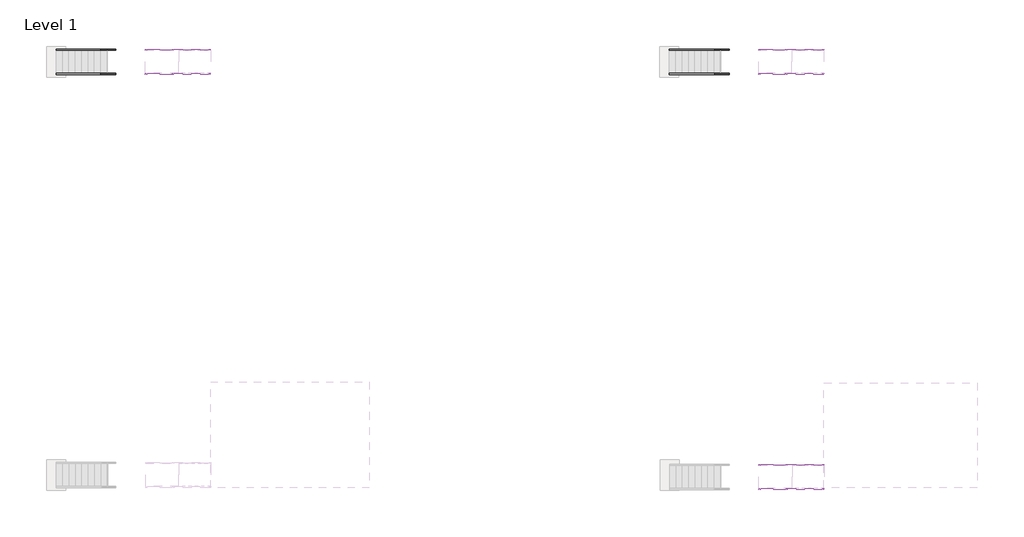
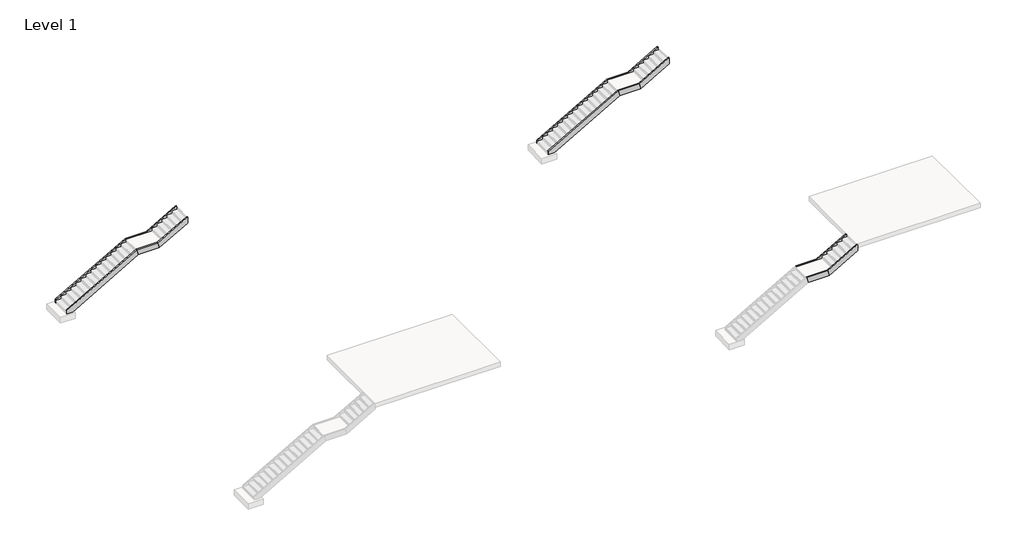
# One storey, part 21 of 21: 16 members.
"""IFC4 building model written with IfcOpenShell, lengths in millimetres."""

from ifc_helpers import new_model, si_unit, frame, origin, place, context, project, spatial, polyline, outline, extrude, element, save

model = new_model("IFC4")

# Units and contexts
model_context = context("Model", 3, world=origin())
ifc_project = project(units=[si_unit("LENGTHUNIT", "METRE", prefix="MILLI")], contexts=[model_context])

# Site, building, storey
site = spatial("IfcSite", under=ifc_project)
building = spatial("IfcBuilding", under=site)
storey = spatial("IfcBuildingStorey", under=building, Name="Level 1", Elevation=0.0)

# Members
placement = place(None, origin())
element("IfcMember", 1, ObjectType="Stringer - 2\" Width", at=placement, inside=storey, context=model_context, shape_type="SweptSolid", body=[
    extrude(outline(polyline([(179.6072535, 133286.3240883), (0.0, 133286.3240883), (0.0, 133560.7577668), (1916.7928571, 136915.1452668), (2208.8928571, 136837.5738947), (179.6072535, 133286.3240883)])), frame((0.0, 33246.6812523, 0.0), z_axis=(0.0, 1.0, 0.0), x_axis=(0.0, 0.0, 1.0)), (0.0, 0.0, 1.0), 50.8),
])
element("IfcMember", 2, ObjectType="Stringer - 2\" Width", at=placement, inside=storey, context=model_context, shape_type="SweptSolid", body=[
    extrude(outline(polyline([(179.6072535, 133286.3240883), (0.0, 133286.3240883), (0.0, 133560.7577668), (1916.7928571, 136915.1452668), (2208.8928571, 136837.5738947), (179.6072535, 133286.3240883)])), frame((0.0, 32281.4812523, 0.0), z_axis=(0.0, 1.0, 0.0), x_axis=(0.0, 0.0, 1.0)), (0.0, 0.0, 1.0), 50.8),
])
element("IfcMember", 3, ObjectType="Stringer - 2\" Width", at=placement, inside=storey, context=model_context, shape_type="SweptSolid", body=[
    extrude(outline(polyline([(2208.8928571, 137904.3738947), (1916.7928571, 137981.9452668), (2746.037898, 139433.1240883), (3048.0, 139433.1240883), (3048.0, 139372.8113947), (2208.8928571, 137904.3738947)])), frame((0.0, 33246.6812523, 0.0), z_axis=(0.0, 1.0, 0.0), x_axis=(0.0, 0.0, 1.0)), (0.0, 0.0, 1.0), 50.8),
])
element("IfcMember", 4, ObjectType="Stringer - 2\" Width", at=placement, inside=storey, context=model_context, shape_type="SweptSolid", body=[
    extrude(outline(polyline([(2208.8928571, 137904.3738947), (1916.7928571, 137981.9452668), (2746.037898, 139433.1240883), (3048.0, 139433.1240883), (3048.0, 139372.8113947), (2208.8928571, 137904.3738947)])), frame((0.0, 32281.4812523, 0.0), z_axis=(0.0, 1.0, 0.0), x_axis=(0.0, 0.0, 1.0)), (0.0, 0.0, 1.0), 50.8),
])
element("IfcMember", 5, ObjectType="Stringer - 2\" Width", at=placement, inside=storey, context=model_context, shape_type="SweptSolid", body=[
    extrude(outline(polyline([(1916.7928571, 137981.9452668), (2208.8928571, 137904.3738947), (2208.8928571, 136837.5738947), (1916.7928571, 136915.1452668), (1916.7928571, 137981.9452668)])), frame((0.0, 33246.6812523, 0.0), z_axis=(0.0, 1.0, 0.0), x_axis=(0.0, 0.0, 1.0)), (0.0, 0.0, 1.0), 50.8),
])
element("IfcMember", 6, ObjectType="Stringer - 2\" Width", at=placement, inside=storey, context=model_context, shape_type="SweptSolid", body=[
    extrude(outline(polyline([(2208.8928571, 136837.5738947), (1916.7928571, 136915.1452668), (1916.7928571, 137981.9452668), (2208.8928571, 137904.3738947), (2208.8928571, 136837.5738947)])), frame((0.0, 32281.4812523, 0.0), z_axis=(0.0, 1.0, 0.0), x_axis=(0.0, 0.0, 1.0)), (0.0, 0.0, 1.0), 50.8),
])
element("IfcMember", 7, ObjectType="Stringer - 2\" Width", at=placement, inside=storey, context=model_context, shape_type="SweptSolid", body=[
    extrude(outline(polyline([(179.6072535, 157732.2028142), (0.0, 157732.2028142), (0.0, 158006.6364926), (1916.7928571, 161361.0239926), (2208.8928571, 161283.4526205), (179.6072535, 157732.2028142)])), frame((0.0, 33246.6812523, 0.0), z_axis=(0.0, 1.0, 0.0), x_axis=(0.0, 0.0, 1.0)), (0.0, 0.0, 1.0), 50.8),
])
element("IfcMember", 8, ObjectType="Stringer - 2\" Width", at=placement, inside=storey, context=model_context, shape_type="SweptSolid", body=[
    extrude(outline(polyline([(179.6072535, 157732.2028142), (0.0, 157732.2028142), (0.0, 158006.6364926), (1916.7928571, 161361.0239926), (2208.8928571, 161283.4526205), (179.6072535, 157732.2028142)])), frame((0.0, 32281.4812523, 0.0), z_axis=(0.0, 1.0, 0.0), x_axis=(0.0, 0.0, 1.0)), (0.0, 0.0, 1.0), 50.8),
])
element("IfcMember", 9, ObjectType="Stringer - 2\" Width", at=placement, inside=storey, context=model_context, shape_type="SweptSolid", body=[
    extrude(outline(polyline([(2208.8928571, 162350.2526205), (1916.7928571, 162427.8239926), (2746.037898, 163879.0028142), (3048.0, 163879.0028142), (3048.0, 163818.6901205), (2208.8928571, 162350.2526205)])), frame((0.0, 33246.6812523, 0.0), z_axis=(0.0, 1.0, 0.0), x_axis=(0.0, 0.0, 1.0)), (0.0, 0.0, 1.0), 50.8),
])
element("IfcMember", 10, ObjectType="Stringer - 2\" Width", at=placement, inside=storey, context=model_context, shape_type="SweptSolid", body=[
    extrude(outline(polyline([(2208.8928571, 162350.2526205), (1916.7928571, 162427.8239926), (2746.037898, 163879.0028142), (3048.0, 163879.0028142), (3048.0, 163818.6901205), (2208.8928571, 162350.2526205)])), frame((0.0, 32281.4812523, 0.0), z_axis=(0.0, 1.0, 0.0), x_axis=(0.0, 0.0, 1.0)), (0.0, 0.0, 1.0), 50.8),
])
element("IfcMember", 11, ObjectType="Stringer - 2\" Width", at=placement, inside=storey, context=model_context, shape_type="SweptSolid", body=[
    extrude(outline(polyline([(1916.7928571, 162427.8239926), (2208.8928571, 162350.2526205), (2208.8928571, 161283.4526205), (1916.7928571, 161361.0239926), (1916.7928571, 162427.8239926)])), frame((0.0, 33246.6812523, 0.0), z_axis=(0.0, 1.0, 0.0), x_axis=(0.0, 0.0, 1.0)), (0.0, 0.0, 1.0), 50.8),
])
element("IfcMember", 12, ObjectType="Stringer - 2\" Width", at=placement, inside=storey, context=model_context, shape_type="SweptSolid", body=[
    extrude(outline(polyline([(2208.8928571, 161283.4526205), (1916.7928571, 161361.0239926), (1916.7928571, 162427.8239926), (2208.8928571, 162350.2526205), (2208.8928571, 161283.4526205)])), frame((0.0, 32281.4812523, 0.0), z_axis=(0.0, 1.0, 0.0), x_axis=(0.0, 0.0, 1.0)), (0.0, 0.0, 1.0), 50.8),
])
element("IfcMember", 13, ObjectType="Stringer - 2\" Width", at=placement, inside=storey, context=model_context, shape_type="SweptSolid", body=[
    extrude(outline(polyline([(2208.8928571, 162360.0809132), (1916.7928571, 162437.6522852), (2746.037898, 163888.8311068), (3048.0, 163888.8311068), (3048.0, 163828.5184132), (2208.8928571, 162360.0809132)])), frame((0.0, 16680.5265585, 0.0), z_axis=(0.0, 1.0, 0.0), x_axis=(0.0, 0.0, 1.0)), (0.0, 0.0, 1.0), 50.8),
])
element("IfcMember", 14, ObjectType="Stringer - 2\" Width", at=placement, inside=storey, context=model_context, shape_type="SweptSolid", body=[
    extrude(outline(polyline([(2208.8928571, 162360.0809132), (1916.7928571, 162437.6522852), (2746.037898, 163888.8311068), (3048.0, 163888.8311068), (3048.0, 163828.5184132), (2208.8928571, 162360.0809132)])), frame((0.0, 15715.3265585, 0.0), z_axis=(0.0, 1.0, 0.0), x_axis=(0.0, 0.0, 1.0)), (0.0, 0.0, 1.0), 50.8),
])
element("IfcMember", 15, ObjectType="Stringer - 2\" Width", at=placement, inside=storey, context=model_context, shape_type="SweptSolid", body=[
    extrude(outline(polyline([(1916.7928571, 162437.6522852), (2208.8928571, 162360.0809132), (2208.8928571, 161293.2809132), (1916.7928571, 161370.8522852), (1916.7928571, 162437.6522852)])), frame((0.0, 16680.5265585, 0.0), z_axis=(0.0, 1.0, 0.0), x_axis=(0.0, 0.0, 1.0)), (0.0, 0.0, 1.0), 50.8),
])
element("IfcMember", 16, ObjectType="Stringer - 2\" Width", at=placement, inside=storey, context=model_context, shape_type="SweptSolid", body=[
    extrude(outline(polyline([(2208.8928571, 161293.2809132), (1916.7928571, 161370.8522852), (1916.7928571, 162437.6522852), (2208.8928571, 162360.0809132), (2208.8928571, 161293.2809132)])), frame((0.0, 15715.3265585, 0.0), z_axis=(0.0, 1.0, 0.0), x_axis=(0.0, 0.0, 1.0)), (0.0, 0.0, 1.0), 50.8),
])

save(model, "model.ifc")
